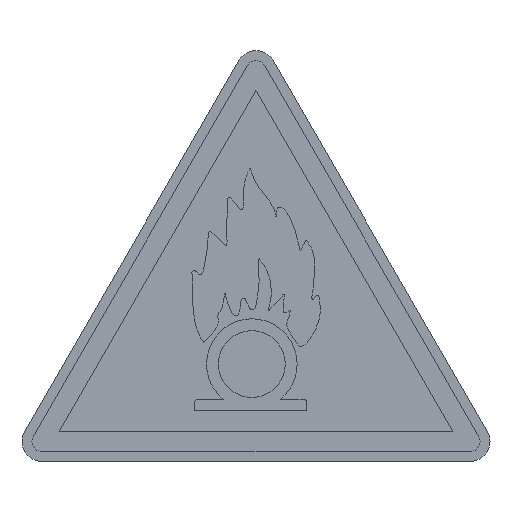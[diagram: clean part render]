
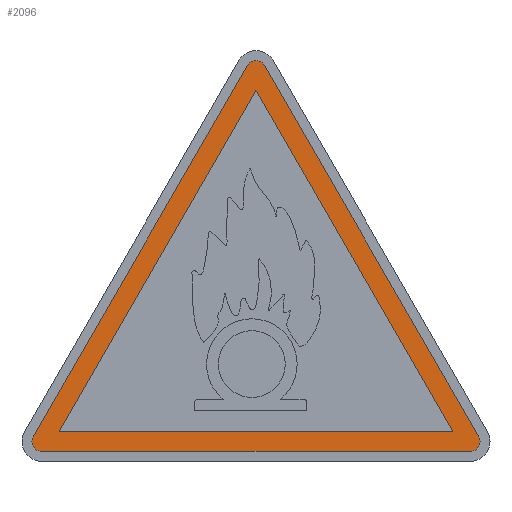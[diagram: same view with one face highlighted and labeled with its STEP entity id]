
A CAD part, top view. The second image highlights one B-rep face of the part: STEP entity #2096.
In plain terms, the highlighted planar face has unit normal (0, 0, 1).
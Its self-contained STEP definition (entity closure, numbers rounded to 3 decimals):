
#12 = CARTESIAN_POINT ( 'NONE',  ( 0., 37.301, 0.22 ) ) ;
#65 = ORIENTED_EDGE ( 'NONE', *, *, #1244, .T. ) ;
#69 = VECTOR ( 'NONE', #177, 1000. ) ;
#97 = AXIS2_PLACEMENT_3D ( 'NONE', #747, #907, #924 ) ;
#108 = EDGE_CURVE ( 'NONE', #1486, #1141, #1984, .T. ) ;
#122 = DIRECTION ( 'NONE',  ( 1., 0., 0. ) ) ;
#125 = ORIENTED_EDGE ( 'NONE', *, *, #1959, .T. ) ;
#177 = DIRECTION ( 'NONE',  ( -0.5, -0.866, 0. ) ) ;
#252 = AXIS2_PLACEMENT_3D ( 'NONE', #1146, #1154, #122 ) ;
#259 = CARTESIAN_POINT ( 'NONE',  ( 0., 37.301, 0.22 ) ) ;
#270 = CARTESIAN_POINT ( 'NONE',  ( -0.866, 39.801, 0.22 ) ) ;
#325 = VERTEX_POINT ( 'NONE', #1205 ) ;
#353 = VERTEX_POINT ( 'NONE', #1442 ) ;
#394 = CARTESIAN_POINT ( 'NONE',  ( -21.536, 1., 0.22 ) ) ;
#416 = EDGE_CURVE ( 'NONE', #353, #2013, #1022, .T. ) ;
#423 = AXIS2_PLACEMENT_3D ( 'NONE', #719, #1252, #698 ) ;
#466 = CARTESIAN_POINT ( 'NONE',  ( -22.402, 2.5, 0.22 ) ) ;
#480 = DIRECTION ( 'NONE',  ( 0., 0., 1. ) ) ;
#495 = CIRCLE ( 'NONE', #252, 1. ) ;
#518 = CARTESIAN_POINT ( 'NONE',  ( -19.804, 3., 0.22 ) ) ;
#631 = VECTOR ( 'NONE', #1901, 1000. ) ;
#645 = EDGE_LOOP ( 'NONE', ( #988, #2229, #2032 ) ) ;
#698 = DIRECTION ( 'NONE',  ( 1., 0., 0. ) ) ;
#719 = CARTESIAN_POINT ( 'NONE',  ( -21.536, 2., 0.22 ) ) ;
#720 = CARTESIAN_POINT ( 'NONE',  ( -21.536, 1., 0.22 ) ) ;
#732 = EDGE_CURVE ( 'NONE', #325, #1115, #1145, .T. ) ;
#747 = CARTESIAN_POINT ( 'NONE',  ( 0., 39.301, 0.22 ) ) ;
#756 = AXIS2_PLACEMENT_3D ( 'NONE', #948, #1301, #843 ) ;
#764 = CARTESIAN_POINT ( 'NONE',  ( 21.536, 1., 0.22 ) ) ;
#781 = CARTESIAN_POINT ( 'NONE',  ( 19.804, 3., 0.22 ) ) ;
#798 = CIRCLE ( 'NONE', #915, 1. ) ;
#825 = ORIENTED_EDGE ( 'NONE', *, *, #732, .T. ) ;
#843 = DIRECTION ( 'NONE',  ( 1., 0., 0. ) ) ;
#887 = LINE ( 'NONE', #720, #1457 ) ;
#907 = DIRECTION ( 'NONE',  ( 0., 0., 1. ) ) ;
#915 = AXIS2_PLACEMENT_3D ( 'NONE', #1012, #480, #1848 ) ;
#924 = DIRECTION ( 'NONE',  ( 1., 0., 0. ) ) ;
#936 = FACE_OUTER_BOUND ( 'NONE', #1892, .T. ) ;
#948 = CARTESIAN_POINT ( 'NONE',  ( 0., 39.301, 0.22 ) ) ;
#959 = DIRECTION ( 'NONE',  ( -0.5, 0.866, 0. ) ) ;
#988 = ORIENTED_EDGE ( 'NONE', *, *, #416, .F. ) ;
#1012 = CARTESIAN_POINT ( 'NONE',  ( -21.536, 2., 0.22 ) ) ;
#1022 = LINE ( 'NONE', #518, #631 ) ;
#1026 = VERTEX_POINT ( 'NONE', #1272 ) ;
#1065 = EDGE_CURVE ( 'NONE', #1141, #1026, #1135, .T. ) ;
#1107 = ORIENTED_EDGE ( 'NONE', *, *, #1573, .T. ) ;
#1115 = VERTEX_POINT ( 'NONE', #2231 ) ;
#1116 = CIRCLE ( 'NONE', #97, 1. ) ;
#1135 = CIRCLE ( 'NONE', #423, 1. ) ;
#1141 = VERTEX_POINT ( 'NONE', #466 ) ;
#1145 = LINE ( 'NONE', #1807, #1336 ) ;
#1146 = CARTESIAN_POINT ( 'NONE',  ( 21.536, 2., 0.22 ) ) ;
#1154 = DIRECTION ( 'NONE',  ( 0., 0., 1. ) ) ;
#1156 = LINE ( 'NONE', #1667, #2002 ) ;
#1158 = EDGE_CURVE ( 'NONE', #1825, #325, #495, .T. ) ;
#1159 = ORIENTED_EDGE ( 'NONE', *, *, #108, .T. ) ;
#1205 = CARTESIAN_POINT ( 'NONE',  ( 22.402, 2.5, 0.22 ) ) ;
#1225 = CARTESIAN_POINT ( 'NONE',  ( -0.866, 39.801, 0.22 ) ) ;
#1244 = EDGE_CURVE ( 'NONE', #1026, #2224, #798, .T. ) ;
#1252 = DIRECTION ( 'NONE',  ( 0., 0., 1. ) ) ;
#1261 = DIRECTION ( 'NONE',  ( 1., 0., 0. ) ) ;
#1272 = CARTESIAN_POINT ( 'NONE',  ( -22.536, 2., 0.22 ) ) ;
#1281 = PLANE ( 'NONE',  #756 ) ;
#1293 = DIRECTION ( 'NONE',  ( -0.5, 0.866, 0. ) ) ;
#1301 = DIRECTION ( 'NONE',  ( 0., 0., 1. ) ) ;
#1336 = VECTOR ( 'NONE', #959, 1000. ) ;
#1442 = CARTESIAN_POINT ( 'NONE',  ( -19.804, 3., 0.22 ) ) ;
#1457 = VECTOR ( 'NONE', #1261, 1000. ) ;
#1486 = VERTEX_POINT ( 'NONE', #1225 ) ;
#1573 = EDGE_CURVE ( 'NONE', #2224, #1825, #887, .T. ) ;
#1618 = ORIENTED_EDGE ( 'NONE', *, *, #1065, .T. ) ;
#1667 = CARTESIAN_POINT ( 'NONE',  ( 19.804, 3., 0.22 ) ) ;
#1804 = VERTEX_POINT ( 'NONE', #259 ) ;
#1807 = CARTESIAN_POINT ( 'NONE',  ( 22.402, 2.5, 0.22 ) ) ;
#1823 = EDGE_CURVE ( 'NONE', #2013, #1804, #1156, .T. ) ;
#1825 = VERTEX_POINT ( 'NONE', #764 ) ;
#1848 = DIRECTION ( 'NONE',  ( 1., 0., 0. ) ) ;
#1850 = FACE_BOUND ( 'NONE', #645, .T. ) ;
#1892 = EDGE_LOOP ( 'NONE', ( #125, #1159, #1618, #65, #1107, #1926, #825 ) ) ;
#1901 = DIRECTION ( 'NONE',  ( 1., 0., 0. ) ) ;
#1926 = ORIENTED_EDGE ( 'NONE', *, *, #1158, .T. ) ;
#1959 = EDGE_CURVE ( 'NONE', #1115, #1486, #1116, .T. ) ;
#1984 = LINE ( 'NONE', #270, #2078 ) ;
#2002 = VECTOR ( 'NONE', #1293, 1000. ) ;
#2013 = VERTEX_POINT ( 'NONE', #781 ) ;
#2032 = ORIENTED_EDGE ( 'NONE', *, *, #1823, .F. ) ;
#2078 = VECTOR ( 'NONE', #2192, 1000. ) ;
#2086 = LINE ( 'NONE', #12, #69 ) ;
#2096 = ADVANCED_FACE ( 'NONE', ( #936, #1850 ), #1281, .T. ) ;
#2189 = EDGE_CURVE ( 'NONE', #1804, #353, #2086, .T. ) ;
#2192 = DIRECTION ( 'NONE',  ( -0.5, -0.866, 0. ) ) ;
#2224 = VERTEX_POINT ( 'NONE', #394 ) ;
#2229 = ORIENTED_EDGE ( 'NONE', *, *, #2189, .F. ) ;
#2231 = CARTESIAN_POINT ( 'NONE',  ( 0.866, 39.801, 0.22 ) ) ;
